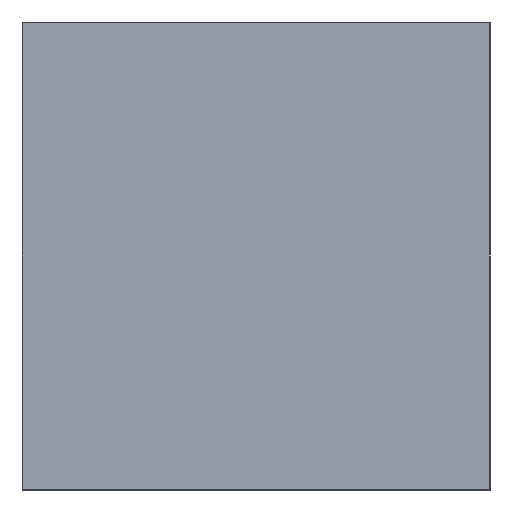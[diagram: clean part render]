
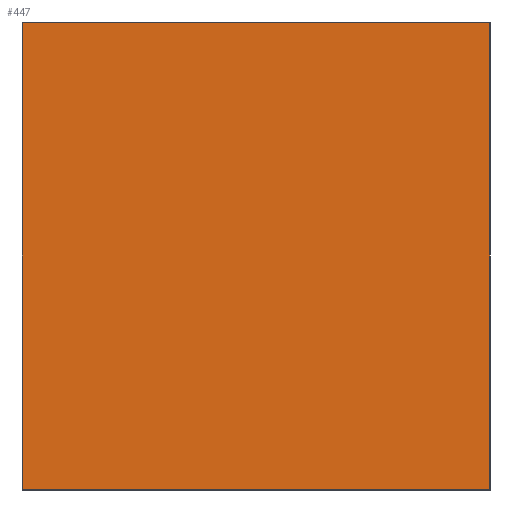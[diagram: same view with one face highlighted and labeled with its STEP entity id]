
A CAD part, left-side view. The second image highlights one B-rep face of the part: STEP entity #447.
In plain terms, the highlighted planar face has unit normal (-1, 0, 0).
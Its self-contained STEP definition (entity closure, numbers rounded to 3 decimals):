
#31=PLANE('',#492);
#35=LINE('',#651,#79);
#42=LINE('',#681,#86);
#46=LINE('',#687,#90);
#51=LINE('',#696,#95);
#79=VECTOR('',#522,499.);
#86=VECTOR('',#555,499.);
#90=VECTOR('',#563,498.);
#95=VECTOR('',#576,498.);
#154=FACE_OUTER_BOUND('',#184,.T.);
#184=EDGE_LOOP('',(#410,#411,#412,#413));
#209=VERTEX_POINT('',#644);
#211=VERTEX_POINT('',#649);
#217=VERTEX_POINT('',#670);
#220=VERTEX_POINT('',#677);
#248=EDGE_CURVE('',#211,#209,#35,.T.);
#263=EDGE_CURVE('',#217,#220,#42,.T.);
#267=EDGE_CURVE('',#209,#217,#46,.T.);
#272=EDGE_CURVE('',#211,#220,#51,.T.);
#410=ORIENTED_EDGE('',*,*,#248,.F.);
#411=ORIENTED_EDGE('',*,*,#272,.T.);
#412=ORIENTED_EDGE('',*,*,#263,.F.);
#413=ORIENTED_EDGE('',*,*,#267,.F.);
#447=ADVANCED_FACE('',(#154),#31,.T.);
#492=AXIS2_PLACEMENT_3D('',#748,#622,#623);
#522=DIRECTION('',(0.,1.,0.));
#555=DIRECTION('',(0.,-1.,0.));
#563=DIRECTION('',(0.,0.,1.));
#576=DIRECTION('',(0.,0.,1.));
#622=DIRECTION('center_axis',(-1.,0.,0.));
#623=DIRECTION('ref_axis',(0.,0.,1.));
#644=CARTESIAN_POINT('',(0.,499.,-499.));
#649=CARTESIAN_POINT('',(0.,0.,-499.));
#651=CARTESIAN_POINT('',(0.,0.,-499.));
#670=CARTESIAN_POINT('',(0.,499.,-1.));
#677=CARTESIAN_POINT('',(0.,0.,-1.));
#681=CARTESIAN_POINT('',(0.,0.,-1.));
#687=CARTESIAN_POINT('',(0.,499.,-375.));
#696=CARTESIAN_POINT('',(0.,0.,-500.));
#748=CARTESIAN_POINT('Origin',(0.,0.,-500.));
